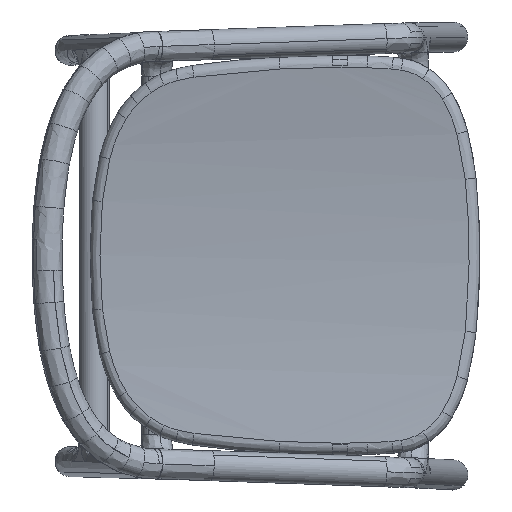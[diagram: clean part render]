
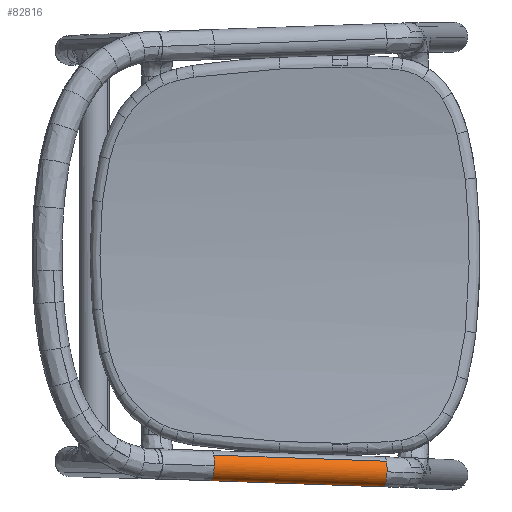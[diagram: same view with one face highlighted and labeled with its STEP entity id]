
A CAD part, top view. The second image highlights one B-rep face of the part: STEP entity #82816.
In plain terms, the highlighted cylindrical face has radius 16 mm (diameter 32 mm), a partial arc.
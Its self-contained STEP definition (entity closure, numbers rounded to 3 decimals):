
#3804 = DIRECTION ( 'NONE',  ( -0.191, 0., -0.982 ) ) ;
#6402 = AXIS2_PLACEMENT_3D ( 'NONE', #54934, #99443, #12249 ) ;
#10168 = EDGE_CURVE ( 'NONE', #90798, #69633, #72444, .T. ) ;
#10450 = CARTESIAN_POINT ( 'NONE',  ( 4653.748, 5902.853, 3244.269 ) ) ;
#10854 = CARTESIAN_POINT ( 'NONE',  ( 4656.3, 5914.084, 3255.375 ) ) ;
#12249 = DIRECTION ( 'NONE',  ( -0.191, 0., -0.982 ) ) ;
#12892 = CARTESIAN_POINT ( 'NONE',  ( 4655.741, 5898.094, 3255.375 ) ) ;
#12986 = EDGE_CURVE ( 'NONE', #43686, #86049, #34282, .T. ) ;
#13821 = AXIS2_PLACEMENT_3D ( 'NONE', #29244, #64927, #63774 ) ;
#14510 = CIRCLE ( 'NONE', #68684, 16. ) ;
#15285 = EDGE_CURVE ( 'NONE', #83502, #39021, #49441, .T. ) ;
#15602 = DIRECTION ( 'NONE',  ( 0.981, -0.034, -0.191 ) ) ;
#18443 = DIRECTION ( 'NONE',  ( -0.191, 0., -0.982 ) ) ;
#19789 = CARTESIAN_POINT ( 'NONE',  ( 4655.825, 5898.091, 3255.359 ) ) ;
#20377 = CARTESIAN_POINT ( 'NONE',  ( 4655.99, 5898.085, 3255.327 ) ) ;
#20629 = EDGE_CURVE ( 'NONE', #39021, #59293, #62843, .T. ) ;
#22706 = AXIS2_PLACEMENT_3D ( 'NONE', #73404, #37139, #3804 ) ;
#26182 = CARTESIAN_POINT ( 'NONE',  ( 4842.677, 5918.896, 3230.727 ) ) ;
#26369 = VERTEX_POINT ( 'NONE', #110230 ) ;
#28936 = CARTESIAN_POINT ( 'NONE',  ( 4840.125, 5907.665, 3219.621 ) ) ;
#29244 = CARTESIAN_POINT ( 'NONE',  ( 4656.548, 5914.076, 3255.327 ) ) ;
#31983 = ORIENTED_EDGE ( 'NONE', *, *, #65170, .F. ) ;
#32057 = AXIS2_PLACEMENT_3D ( 'NONE', #28936, #90953, #18443 ) ;
#34282 = LINE ( 'NONE', #61759, #90820 ) ;
#37139 = DIRECTION ( 'NONE',  ( 0.981, -0.034, -0.191 ) ) ;
#37433 = CARTESIAN_POINT ( 'NONE',  ( 4656.3, 5914.084, 3255.375 ) ) ;
#38393 = CARTESIAN_POINT ( 'NONE',  ( 4659.351, 5913.978, 3271.081 ) ) ;
#38844 = ORIENTED_EDGE ( 'NONE', *, *, #12986, .F. ) ;
#39021 = VERTEX_POINT ( 'NONE', #12892 ) ;
#43686 = VERTEX_POINT ( 'NONE', #82554 ) ;
#44184 = EDGE_LOOP ( 'NONE', ( #102991, #80437, #51808, #31983, #108120, #93082, #82322, #38844 ) ) ;
#45550 = EDGE_CURVE ( 'NONE', #59293, #43686, #14510, .T. ) ;
#49441 = B_SPLINE_CURVE_WITH_KNOTS ( 'NONE', 3,
 ( #20377, #56027, #19789, #90582 ),
 .UNSPECIFIED., .F., .F.,
 ( 4, 4 ),
 ( 0., 1. ),
 .UNSPECIFIED. ) ;
#51808 = ORIENTED_EDGE ( 'NONE', *, *, #15285, .F. ) ;
#53550 = DIRECTION ( 'NONE',  ( -0.191, 0., -0.982 ) ) ;
#53617 = EDGE_CURVE ( 'NONE', #26369, #90798, #86721, .T. ) ;
#54402 = CIRCLE ( 'NONE', #32057, 16. ) ;
#54934 = CARTESIAN_POINT ( 'NONE',  ( 4840.125, 5907.665, 3219.621 ) ) ;
#55852 = DIRECTION ( 'NONE',  ( -0.981, 0.034, 0.191 ) ) ;
#56027 = CARTESIAN_POINT ( 'NONE',  ( 4655.907, 5898.088, 3255.343 ) ) ;
#59293 = VERTEX_POINT ( 'NONE', #38393 ) ;
#61759 = CARTESIAN_POINT ( 'NONE',  ( 4658.852, 5925.316, 3266.481 ) ) ;
#62843 = CIRCLE ( 'NONE', #70112, 16. ) ;
#63774 = DIRECTION ( 'NONE',  ( -0.191, 0., -0.982 ) ) ;
#64232 = CIRCLE ( 'NONE', #13821, 16. ) ;
#64927 = DIRECTION ( 'NONE',  ( -0.981, 0.034, 0.191 ) ) ;
#65076 = CARTESIAN_POINT ( 'NONE',  ( 4655.99, 5898.085, 3255.327 ) ) ;
#65170 = EDGE_CURVE ( 'NONE', #69633, #83502, #64232, .T. ) ;
#68684 = AXIS2_PLACEMENT_3D ( 'NONE', #37433, #73113, #82484 ) ;
#69129 = CARTESIAN_POINT ( 'NONE',  ( 4837.573, 5896.433, 3208.516 ) ) ;
#69633 = VERTEX_POINT ( 'NONE', #110542 ) ;
#70112 = AXIS2_PLACEMENT_3D ( 'NONE', #10854, #55852, #53550 ) ;
#70814 = EDGE_CURVE ( 'NONE', #86049, #26369, #54402, .T. ) ;
#72444 = LINE ( 'NONE', #10450, #109552 ) ;
#73113 = DIRECTION ( 'NONE',  ( -0.981, 0.034, 0.191 ) ) ;
#73404 = CARTESIAN_POINT ( 'NONE',  ( 4656.3, 5914.084, 3255.375 ) ) ;
#75150 = CYLINDRICAL_SURFACE ( 'NONE', #22706, 16. ) ;
#80437 = ORIENTED_EDGE ( 'NONE', *, *, #20629, .F. ) ;
#82322 = ORIENTED_EDGE ( 'NONE', *, *, #70814, .F. ) ;
#82484 = DIRECTION ( 'NONE',  ( -0.191, 0., -0.982 ) ) ;
#82554 = CARTESIAN_POINT ( 'NONE',  ( 4658.852, 5925.316, 3266.481 ) ) ;
#82816 = ADVANCED_FACE ( 'NONE', ( #109707 ), #75150, .T. ) ;
#83502 = VERTEX_POINT ( 'NONE', #65076 ) ;
#86049 = VERTEX_POINT ( 'NONE', #26182 ) ;
#86721 = CIRCLE ( 'NONE', #6402, 16. ) ;
#90582 = CARTESIAN_POINT ( 'NONE',  ( 4655.741, 5898.094, 3255.375 ) ) ;
#90798 = VERTEX_POINT ( 'NONE', #69129 ) ;
#90820 = VECTOR ( 'NONE', #15602, 1000. ) ;
#90953 = DIRECTION ( 'NONE',  ( 0.981, -0.034, -0.191 ) ) ;
#93082 = ORIENTED_EDGE ( 'NONE', *, *, #53617, .F. ) ;
#99443 = DIRECTION ( 'NONE',  ( 0.981, -0.034, -0.191 ) ) ;
#102991 = ORIENTED_EDGE ( 'NONE', *, *, #45550, .F. ) ;
#108120 = ORIENTED_EDGE ( 'NONE', *, *, #10168, .F. ) ;
#108167 = DIRECTION ( 'NONE',  ( -0.981, 0.034, 0.191 ) ) ;
#109552 = VECTOR ( 'NONE', #108167, 1000. ) ;
#109707 = FACE_OUTER_BOUND ( 'NONE', #44184, .T. ) ;
#110230 = CARTESIAN_POINT ( 'NONE',  ( 4843.176, 5907.558, 3235.328 ) ) ;
#110542 = CARTESIAN_POINT ( 'NONE',  ( 4653.996, 5902.844, 3244.221 ) ) ;
